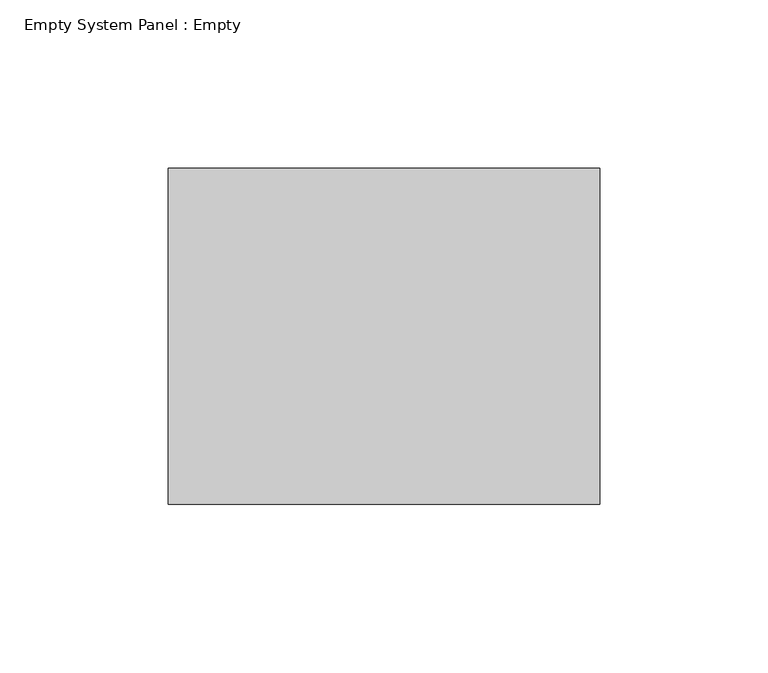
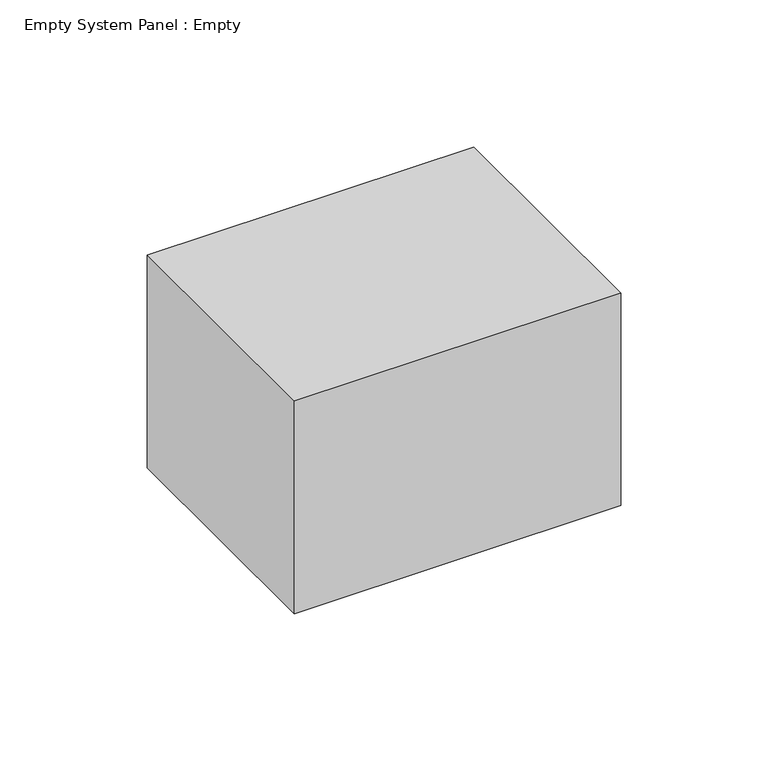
"""IFC4 building model written with IfcOpenShell, lengths in millimetres: plate geometry, Empty System Panel : Empty."""

from ifc_helpers import new_model, si_unit, origin, origin_with_axes, place, context, project, spatial, polyline, outline, extrude, source, transform, mapped, element, save


def empty_system_panel_empty_77ed0f30(model_context):
    return source(origin(), model_context, "Body", "SweptSolid", [
        extrude(outline(polyline([(64.1878051, 50.0), (-64.1878051, 50.0), (-64.1878051, 150.0), (64.1878051, 150.0), (64.1878051, 50.0)])), origin_with_axes(), (0.0, 0.0, 1.0), 88.37561),
    ])


if __name__ == "__main__":
    model = new_model("IFC4")
    model_context = context("Model", 3, world=origin())
    ifc_project = project(units=[si_unit("LENGTHUNIT", "METRE", prefix="MILLI")], contexts=[model_context])
    site = spatial("IfcSite", under=ifc_project)
    building = spatial("IfcBuilding", under=site)
    placement = place(None, origin())
    empty_system_panel_empty_shape = empty_system_panel_empty_77ed0f30(model_context)
    element("IfcPlate", 1, ObjectType="Empty System Panel : Empty", at=placement, inside=building, context=model_context, shape_type="MappedRepresentation", body=[
        mapped(empty_system_panel_empty_shape, transform((0.0, 0.0, 0.0), x_axis=(1.0, 0.0, 0.0), y_axis=(0.0, 1.0, 0.0), z_axis=(0.0, 0.0, 1.0))),
    ])
    save(model, "model.ifc")
